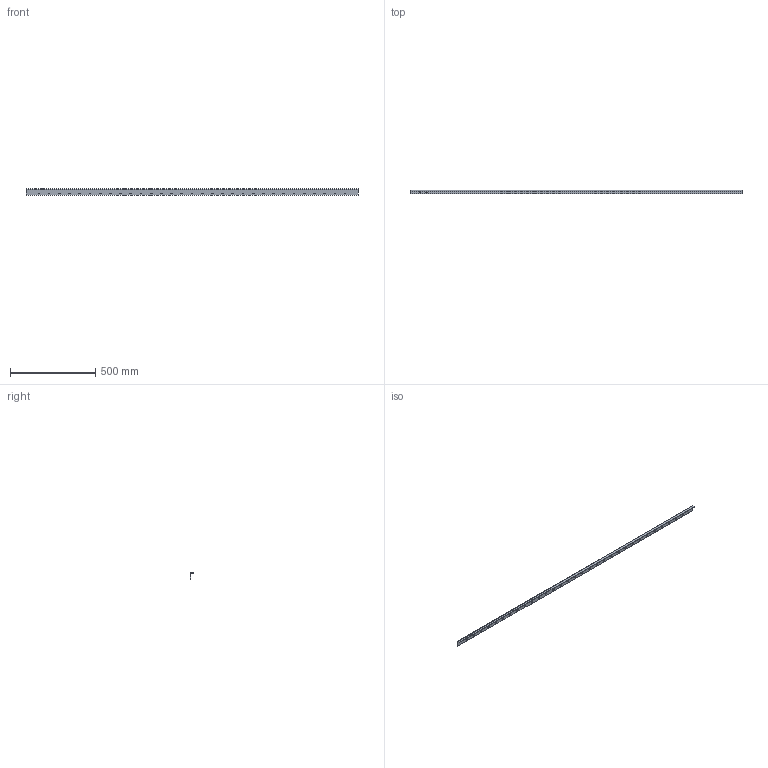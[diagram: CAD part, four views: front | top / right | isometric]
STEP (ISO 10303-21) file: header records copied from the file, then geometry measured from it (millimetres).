
FILE_DESCRIPTION (( 'STEP AP203' ), '1' );
FILE_NAME ('ORW-72.24.10.005 赶鎀鍧.STEP', '2025-10-13T13:18:08', ( '燴僽樥' ), ( '' ), 'SwSTEP 2.0', 'SolidWorks 2025', '' );
FILE_SCHEMA (( 'CONFIG_CONTROL_DESIGN' ));
Length unit declared in the file: millimetre
Products named in the file (1): ORW-72.24.10.005 Уголок_-01
Bounding box: 1952 x 18 x 37 mm (x, y, z)
Volume: 198989.1 mm3; surface area: 208678.3 mm2
Topology: 1 solids, 1 shells, 140 faces, 406 edges, 268 vertices
Faces by surface type: plane 74, cylinder 66
Full cylindrical faces by diameter (mm): 6.4 x2
Entity records: 4835 total; most frequent: DIRECTION 818, CARTESIAN_POINT 813, ORIENTED_EDGE 808, EDGE_CURVE 404, AXIS2_PLACEMENT_3D 273, VECTOR 272, LINE 272, VERTEX_POINT 268
